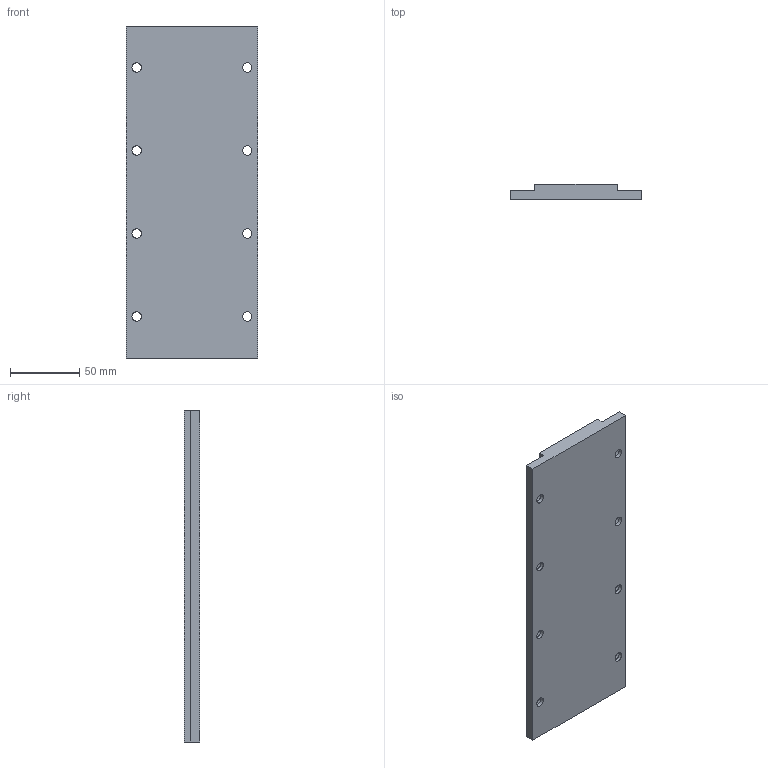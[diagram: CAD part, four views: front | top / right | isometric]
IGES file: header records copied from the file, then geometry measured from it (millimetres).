
Global section: file name: R10-240M-x; native system: Autodesk Inventor 2014; preprocessor: unknown; author: jevans; date: 20170609.085111; units: inch
Bounding box: 95 x 11.1 x 240 mm (x, y, z)
Volume: 211640.4 mm3; surface area: 53720.7 mm2
Topology: 1 solids, 1 shells, 34 faces, 88 edges, 64 vertices
Faces by surface type: bspline 34
